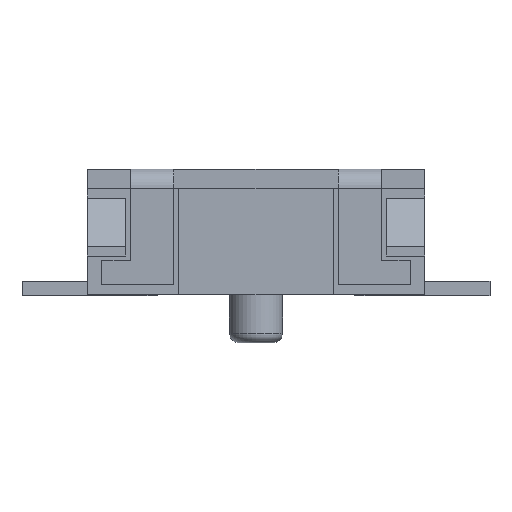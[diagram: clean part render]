
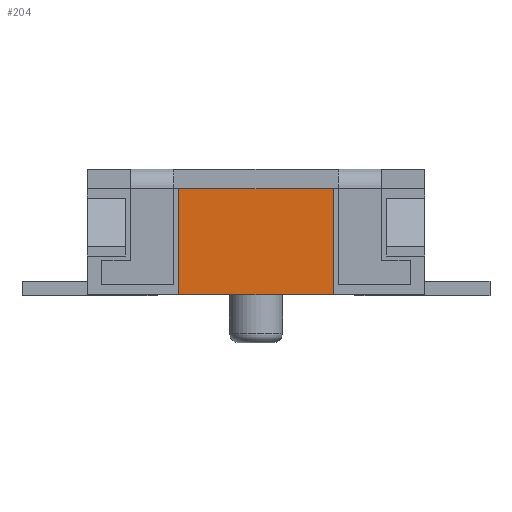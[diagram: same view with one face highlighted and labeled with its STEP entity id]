
A CAD part, front view. The second image highlights one B-rep face of the part: STEP entity #204.
In plain terms, the highlighted planar face has unit normal (0, -1, 0).
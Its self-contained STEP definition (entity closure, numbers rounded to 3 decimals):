
#204 = ADVANCED_FACE ( 'NONE', ( #23100 ), #1362, .T. ) ;
#497 = EDGE_CURVE ( 'NONE', #11465, #3081, #15769, .T. ) ;
#575 = CARTESIAN_POINT ( 'NONE',  ( 0.8, -1.75, 0. ) ) ;
#1179 = CARTESIAN_POINT ( 'NONE',  ( 0.8, -1.75, 1.1 ) ) ;
#1265 = VECTOR ( 'NONE', #6721, 1000. ) ;
#1362 = PLANE ( 'NONE',  #7723 ) ;
#1906 = ORIENTED_EDGE ( 'NONE', *, *, #14371, .F. ) ;
#2526 = VECTOR ( 'NONE', #20208, 1000. ) ;
#3081 = VERTEX_POINT ( 'NONE', #21709 ) ;
#3146 = CARTESIAN_POINT ( 'NONE',  ( -0.4, -1.75, 1.1 ) ) ;
#6721 = DIRECTION ( 'NONE',  ( 0., 0., 1. ) ) ;
#7270 = VECTOR ( 'NONE', #10449, 1000. ) ;
#7723 = AXIS2_PLACEMENT_3D ( 'NONE', #20009, #14596, #8799 ) ;
#8799 = DIRECTION ( 'NONE',  ( 1., 0., 0. ) ) ;
#10449 = DIRECTION ( 'NONE',  ( 1., 0., 0. ) ) ;
#11465 = VERTEX_POINT ( 'NONE', #15951 ) ;
#11466 = CARTESIAN_POINT ( 'NONE',  ( 0.6, -1.75, 0. ) ) ;
#11921 = EDGE_LOOP ( 'NONE', ( #12289, #19818, #1906, #18325 ) ) ;
#12103 = CARTESIAN_POINT ( 'NONE',  ( -0.8, -1.75, -1.612 ) ) ;
#12236 = LINE ( 'NONE', #3146, #7270 ) ;
#12289 = ORIENTED_EDGE ( 'NONE', *, *, #21494, .F. ) ;
#12551 = LINE ( 'NONE', #23642, #16146 ) ;
#14371 = EDGE_CURVE ( 'NONE', #3081, #18950, #12236, .T. ) ;
#14596 = DIRECTION ( 'NONE',  ( 0., -1., 0. ) ) ;
#15769 = LINE ( 'NONE', #12103, #1265 ) ;
#15951 = CARTESIAN_POINT ( 'NONE',  ( -0.8, -1.75, 0. ) ) ;
#16146 = VECTOR ( 'NONE', #16580, 1000. ) ;
#16580 = DIRECTION ( 'NONE',  ( 0., 0., 1. ) ) ;
#17709 = EDGE_CURVE ( 'NONE', #19633, #18950, #12551, .T. ) ;
#18325 = ORIENTED_EDGE ( 'NONE', *, *, #497, .F. ) ;
#18621 = LINE ( 'NONE', #11466, #2526 ) ;
#18950 = VERTEX_POINT ( 'NONE', #1179 ) ;
#19633 = VERTEX_POINT ( 'NONE', #575 ) ;
#19818 = ORIENTED_EDGE ( 'NONE', *, *, #17709, .T. ) ;
#20009 = CARTESIAN_POINT ( 'NONE',  ( 0.6, -1.75, 1. ) ) ;
#20208 = DIRECTION ( 'NONE',  ( -1., 0., 0. ) ) ;
#21494 = EDGE_CURVE ( 'NONE', #19633, #11465, #18621, .T. ) ;
#21709 = CARTESIAN_POINT ( 'NONE',  ( -0.8, -1.75, 1.1 ) ) ;
#23100 = FACE_OUTER_BOUND ( 'NONE', #11921, .T. ) ;
#23642 = CARTESIAN_POINT ( 'NONE',  ( 0.8, -1.75, -1.612 ) ) ;
